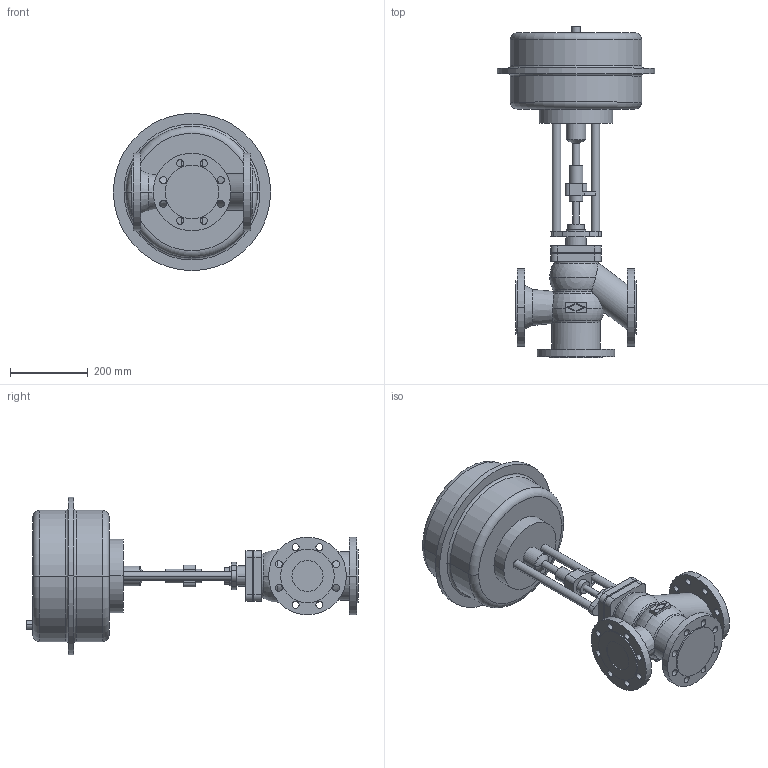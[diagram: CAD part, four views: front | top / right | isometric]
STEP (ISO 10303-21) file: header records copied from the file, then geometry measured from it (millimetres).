
FILE_DESCRIPTION(('OneSpaceDesigner STEP Export'),'2;1');
FILE_NAME('c000000691.stp','2006-09-19T10:17:55',(''),(''),'OneSpace Designer STEP processor for AP214 (Solid Model)','OneSpace Designer 13.20A 18-Aug-2005 (C) CoCreate Software GmbH','');
FILE_SCHEMA(('AUTOMOTIVE_DESIGN { 1 0 10303 214 1 1 1 1 }'));
Length unit declared in the file: millimetre
Products named in the file (2): 1; 2
Bounding box: 405 x 854.5 x 405 mm (x, y, z)
Volume: 26319248.1 mm3; surface area: 962631.7 mm2
Topology: 2 solids, 2 shells, 224 faces, 562 edges, 366 vertices
Faces by surface type: cylinder 118, plane 76, torus 20, cone 6, sphere 4
Entity records: 6155 total; most frequent: CARTESIAN_POINT 1219, ORIENTED_EDGE 1116, DIRECTION 884, EDGE_CURVE 558, VERTEX_POINT 366, AXIS2_PLACEMENT_3D 324, EDGE_LOOP 300, VECTOR 236
